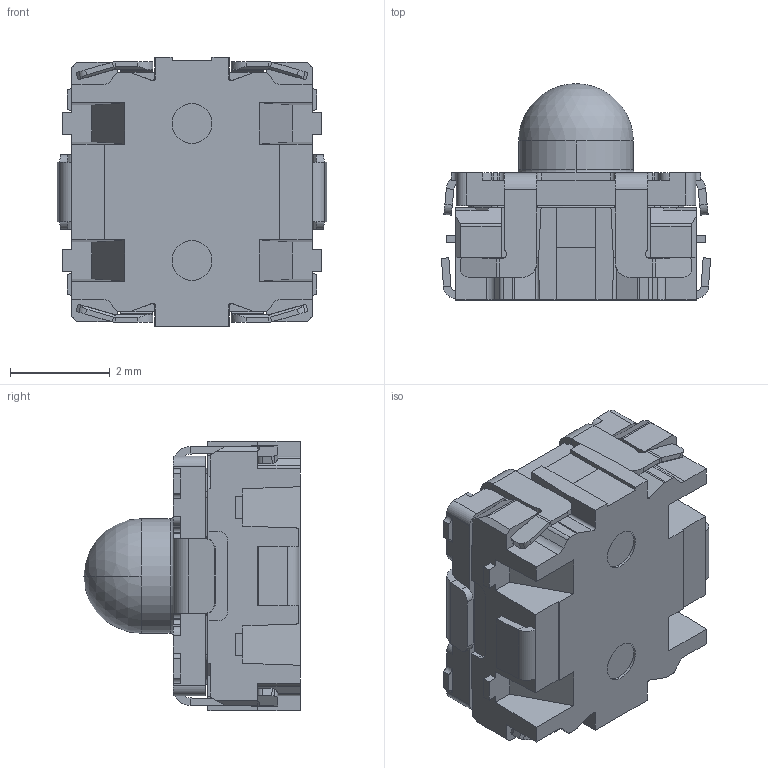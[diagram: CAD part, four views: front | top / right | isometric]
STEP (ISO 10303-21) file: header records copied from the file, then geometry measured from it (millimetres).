
FILE_DESCRIPTION (( 'STEP AP214' ), '1' );
FILE_NAME ('SKSUBB_3D.STEP', '2020-02-11T04:45:19', ( '' ), ( '' ), 'SwSTEP 2.0', 'SolidWorks 2019', '' );
FILE_SCHEMA (( 'AUTOMOTIVE_DESIGN' ));
Length unit declared in the file: millimetre
Products named in the file (1): SKSUBB_3D
Bounding box: 5.4 x 4.34 x 5.4 mm (x, y, z)
Volume: 62.8 mm3; surface area: 164.7 mm2
Topology: 1 solids, 1 shells, 451 faces, 1237 edges, 789 vertices
Faces by surface type: plane 284, cylinder 142, bspline 12, cone 7, torus 4, sphere 2
Entity records: 19319 total; most frequent: CARTESIAN_POINT 3110, ORIENTED_EDGE 2468, DIRECTION 2295, EDGE_CURVE 1234, VECTOR 869, LINE 869, VERTEX_POINT 788, AXIS2_PLACEMENT_3D 713
